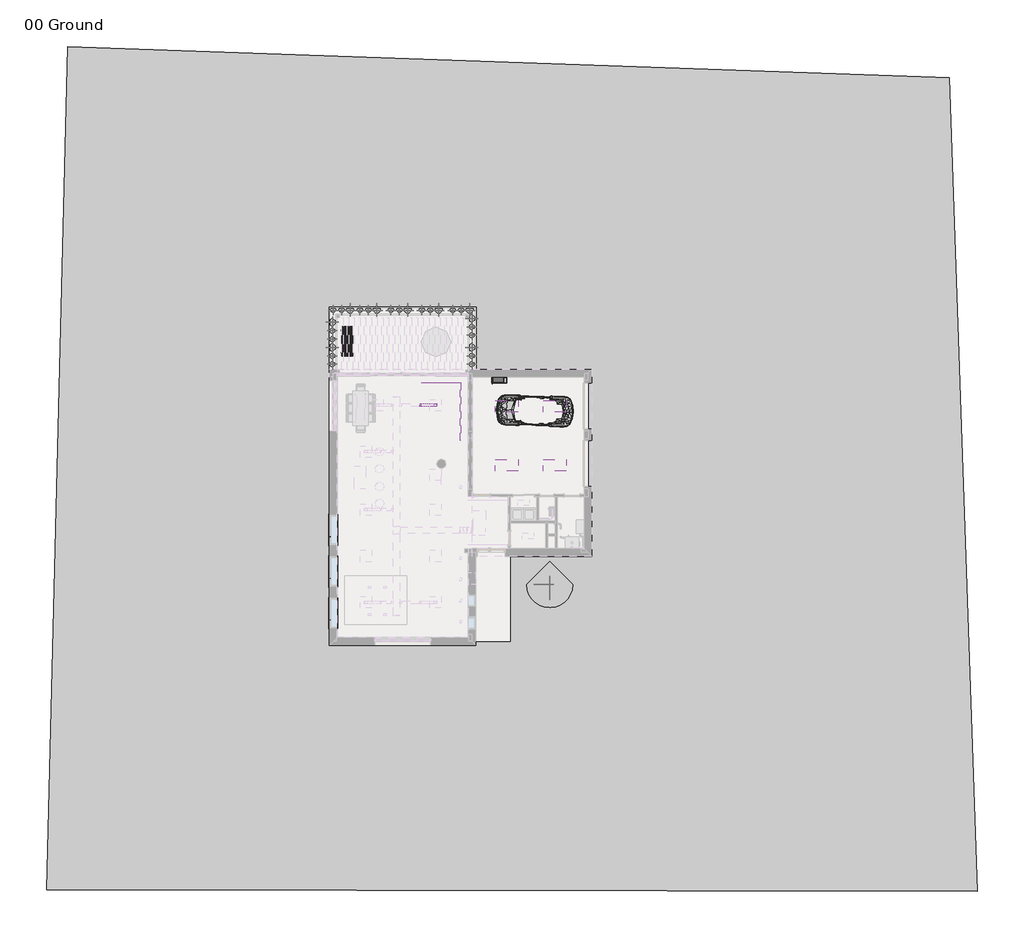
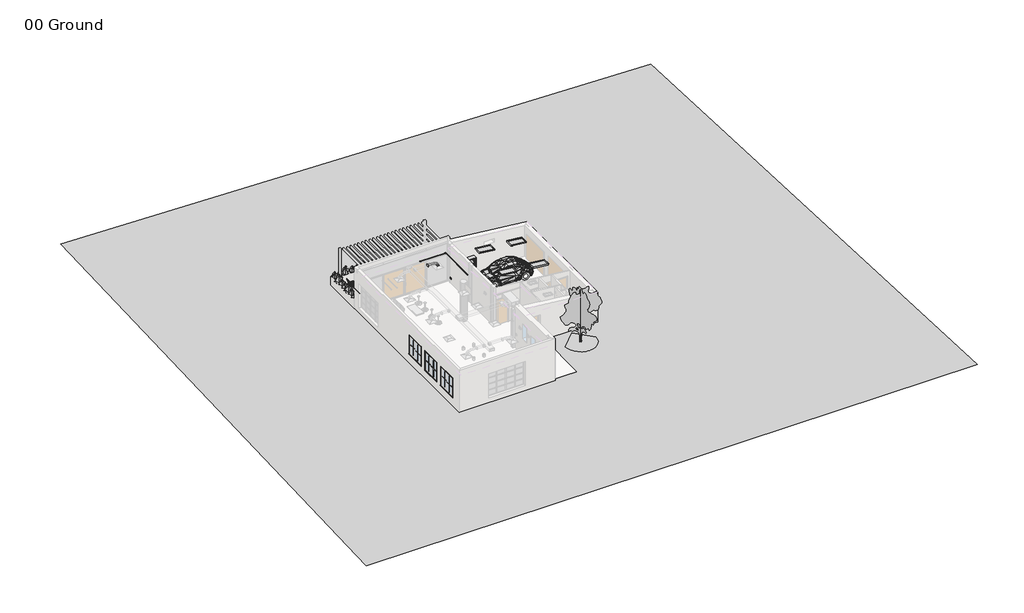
# One storey, part 7 of 7: 29 geographic elements, 19 proxies, 6 light fixtures, 2 duct fittings, 1 duct segment.
"""IFC4 building model written with IfcOpenShell, lengths in millimetres."""

from ifc_helpers import new_model, si_unit, frame, origin, place, context, project, spatial, circle_curve, ellipse_curve, triangles, transform, mapped, element, save
from ifc_brep_helpers import plane_surface, cylinder_surface, advanced_brep
from components import m_hose_reel_cabinet_surface_mounted_25_mm_ba365d7c, m_muntin_pattern_2x2_m_muntin_pattern_2x2_30659562, m_rpc_beetle_m_rpc_beetle_b6d71803, m_receptacle_220v_standard_10251bba, m_trim_window_exterior_flat_with_sill_22923e22, m_trim_window_interior_flat_picture_frame_2e224720, m_rectangular_to_round_transition_angle_45_degree_4e08f822, m_rpc_tree_deciduous_japanese_cherry_4_5_meters_cd2ce576, rpc_plant_tropical_9b0843ec, rpc_plant_tropical_418e7fe6, geographic_element_864e469f, ceiling_light_linear_box_0600x1200mm_2_lamp_230v_26f9dbca, m_downlight_strip_2000mm_277v_8f60c8d5, m_downlight_strip_3000mm_277v_9fad74d4

model = new_model("IFC4")

# Units and contexts
model_context = context("Model", 3, world=origin())
ifc_project = project(units=[si_unit("LENGTHUNIT", "METRE", prefix="MILLI")], contexts=[model_context])

# Site, building, storey
site = spatial("IfcSite", under=ifc_project)
building = spatial("IfcBuilding", under=site)
storey = spatial("IfcBuildingStorey", under=building, Name="00 Ground", Elevation=0.0)

# Proxies
placement = place(None, origin())
element("IfcBuildingElementProxy", 1, Name="Building Element Proxy", at=placement, inside=storey, context=model_context, shape_type="Tessellation", body=[
    triangles([(-23129.6788879, -20391.19953, 0.0), (24993.4581482, -20476.3734009, 0.0), (23545.5046692, 21599.4304321, 0.0), (-22022.4208923, 23217.7316528, 0.0)], [[4, 1, 3], [2, 3, 1]], closed=False),
])
m_hose_reel_cabinet_surface_mounted_25_mm_shape = m_hose_reel_cabinet_surface_mounted_25_mm_ba365d7c(model_context)
element("IfcBuildingElementProxy", 2, Name="M_Hose Reel Cabinet - Surface Mounted : 25 mm", ObjectType="M_Hose Reel Cabinet - Surface Mounted : 25 mm", at=placement, inside=storey, context=model_context, shape_type="MappedRepresentation", body=[
    mapped(m_hose_reel_cabinet_surface_mounted_25_mm_shape, transform((277.4592001, 6124.2898352, 700.0), x_axis=(1.0, 0.0, 0.0), y_axis=(0.0, 0.0, 1.0), z_axis=(0.0, -1.0, 0.0))),
])
m_muntin_pattern_2x2_m_muntin_pattern_2x2_shape = m_muntin_pattern_2x2_m_muntin_pattern_2x2_30659562(model_context)
element("IfcBuildingElementProxy", 3, Name="M_Muntin Pattern_2x2 : M_Muntin Pattern_2x2", ObjectType="M_Muntin Pattern_2x2 : M_Muntin Pattern_2x2", at=placement, inside=storey, context=model_context, shape_type="MappedRepresentation", body=[
    mapped(m_muntin_pattern_2x2_m_muntin_pattern_2x2_shape, transform((-8453.5657999, -5733.3476648, 882.55), x_axis=(0.0, 1.0, 0.0), y_axis=(-1.0, 0.0, 0.0), z_axis=(0.0, 0.0, 1.0))),
])
element("IfcBuildingElementProxy", 4, Name="M_Muntin Pattern_2x2 : M_Muntin Pattern_2x2", ObjectType="M_Muntin Pattern_2x2 : M_Muntin Pattern_2x2", at=placement, inside=storey, context=model_context, shape_type="MappedRepresentation", body=[
    mapped(m_muntin_pattern_2x2_m_muntin_pattern_2x2_shape, transform((-8498.0157999, -6442.0726648, 882.55), x_axis=(0.0, 1.0, 0.0), y_axis=(-1.0, 0.0, 0.0), z_axis=(0.0, 0.0, 1.0))),
])
element("IfcBuildingElementProxy", 5, Name="M_Muntin Pattern_2x2 : M_Muntin Pattern_2x2", ObjectType="M_Muntin Pattern_2x2 : M_Muntin Pattern_2x2", at=placement, inside=storey, context=model_context, shape_type="MappedRepresentation", body=[
    mapped(m_muntin_pattern_2x2_m_muntin_pattern_2x2_shape, transform((-8453.5657999, -3583.3476648, 882.55), x_axis=(0.0, 1.0, 0.0), y_axis=(-1.0, 0.0, 0.0), z_axis=(0.0, 0.0, 1.0))),
])
element("IfcBuildingElementProxy", 6, Name="M_Muntin Pattern_2x2 : M_Muntin Pattern_2x2", ObjectType="M_Muntin Pattern_2x2 : M_Muntin Pattern_2x2", at=placement, inside=storey, context=model_context, shape_type="MappedRepresentation", body=[
    mapped(m_muntin_pattern_2x2_m_muntin_pattern_2x2_shape, transform((-8498.0157999, -4292.0726648, 882.55), x_axis=(0.0, 1.0, 0.0), y_axis=(-1.0, 0.0, 0.0), z_axis=(0.0, 0.0, 1.0))),
])
element("IfcBuildingElementProxy", 7, Name="M_Muntin Pattern_2x2 : M_Muntin Pattern_2x2", ObjectType="M_Muntin Pattern_2x2 : M_Muntin Pattern_2x2", at=placement, inside=storey, context=model_context, shape_type="MappedRepresentation", body=[
    mapped(m_muntin_pattern_2x2_m_muntin_pattern_2x2_shape, transform((-8453.5657999, -1433.3476648, 882.55), x_axis=(0.0, 1.0, 0.0), y_axis=(-1.0, 0.0, 0.0), z_axis=(0.0, 0.0, 1.0))),
])
element("IfcBuildingElementProxy", 8, Name="M_Muntin Pattern_2x2 : M_Muntin Pattern_2x2", ObjectType="M_Muntin Pattern_2x2 : M_Muntin Pattern_2x2", at=placement, inside=storey, context=model_context, shape_type="MappedRepresentation", body=[
    mapped(m_muntin_pattern_2x2_m_muntin_pattern_2x2_shape, transform((-8498.0157999, -2142.0726648, 882.55), x_axis=(0.0, 1.0, 0.0), y_axis=(-1.0, 0.0, 0.0), z_axis=(0.0, 0.0, 1.0))),
])
m_rpc_beetle_m_rpc_beetle_shape = m_rpc_beetle_m_rpc_beetle_b6d71803(model_context)
element("IfcBuildingElementProxy", 9, Name="M_RPC Beetle : M_RPC Beetle", ObjectType="M_RPC Beetle : M_RPC Beetle", at=placement, inside=storey, context=model_context, shape_type="MappedRepresentation", body=[
    mapped(m_rpc_beetle_m_rpc_beetle_shape, transform((3335.3688929, 4337.8164199, 0.0), x_axis=(0.03176173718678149, 0.9994954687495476, 0.0), y_axis=(-0.9994954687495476, 0.03176173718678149, 0.0), z_axis=(0.0, 0.0, 1.0))),
])
m_receptacle_220v_standard_shape = m_receptacle_220v_standard_10251bba(model_context)
element("IfcBuildingElementProxy", 10, Name="M_Receptacle - 220V : Standard", ObjectType="M_Receptacle - 220V : Standard", at=placement, inside=storey, context=model_context, shape_type="MappedRepresentation", body=[
    mapped(m_receptacle_220v_standard_shape, transform((-1322.5407999, 5842.2898352, 460.0), x_axis=(0.0, 1.0, 0.0), y_axis=(0.0, 0.0, -1.0), z_axis=(-1.0, 0.0, 0.0))),
])
element("IfcBuildingElementProxy", 11, Name="M_Receptacle - 220V : Standard", ObjectType="M_Receptacle - 220V : Standard", at=placement, inside=storey, context=model_context, shape_type="MappedRepresentation", body=[
    mapped(m_receptacle_220v_standard_shape, transform((-1322.5407999, 5762.2898352, 460.0), x_axis=(0.0, 1.0, 0.0), y_axis=(0.0, 0.0, -1.0), z_axis=(-1.0, 0.0, 0.0))),
])
element("IfcBuildingElementProxy", 12, Name="M_Receptacle - 220V : Standard", ObjectType="M_Receptacle - 220V : Standard", at=placement, inside=storey, context=model_context, shape_type="MappedRepresentation", body=[
    mapped(m_receptacle_220v_standard_shape, transform((-1122.5407999, 4742.2898352, 460.0), x_axis=(0.0, 1.0, 0.0), y_axis=(0.0, 0.0, 1.0), z_axis=(1.0, 0.0, 0.0))),
])
element("IfcBuildingElementProxy", 13, Name="M_Receptacle - 220V : Standard", ObjectType="M_Receptacle - 220V : Standard", at=placement, inside=storey, context=model_context, shape_type="MappedRepresentation", body=[
    mapped(m_receptacle_220v_standard_shape, transform((-1122.5407999, 4642.2898352, 460.0), x_axis=(0.0, 1.0, 0.0), y_axis=(0.0, 0.0, 1.0), z_axis=(1.0, 0.0, 0.0))),
])
m_trim_window_exterior_flat_with_sill_shape = m_trim_window_exterior_flat_with_sill_22923e22(model_context)
element("IfcBuildingElementProxy", 14, Name="M_Trim-Window-Exterior-Flat : with Sill", ObjectType="M_Trim-Window-Exterior-Flat : with Sill", at=placement, inside=storey, context=model_context, shape_type="MappedRepresentation", body=[
    mapped(m_trim_window_exterior_flat_with_sill_shape, transform((-8507.5407999, -6087.7101648, 2300.0), x_axis=(0.0, -1.0, 0.0), y_axis=(0.0, 0.0, 1.0), z_axis=(-1.0, 0.0, 0.0))),
])
element("IfcBuildingElementProxy", 15, Name="M_Trim-Window-Exterior-Flat : with Sill", ObjectType="M_Trim-Window-Exterior-Flat : with Sill", at=placement, inside=storey, context=model_context, shape_type="MappedRepresentation", body=[
    mapped(m_trim_window_exterior_flat_with_sill_shape, transform((-8507.5407999, -3937.7101648, 2300.0), x_axis=(0.0, -1.0, 0.0), y_axis=(0.0, 0.0, 1.0), z_axis=(-1.0, 0.0, 0.0))),
])
element("IfcBuildingElementProxy", 16, Name="M_Trim-Window-Exterior-Flat : with Sill", ObjectType="M_Trim-Window-Exterior-Flat : with Sill", at=placement, inside=storey, context=model_context, shape_type="MappedRepresentation", body=[
    mapped(m_trim_window_exterior_flat_with_sill_shape, transform((-8507.5407999, -1787.7101648, 2300.0), x_axis=(0.0, -1.0, 0.0), y_axis=(0.0, 0.0, 1.0), z_axis=(-1.0, 0.0, 0.0))),
])
m_trim_window_interior_flat_picture_frame_shape = m_trim_window_interior_flat_picture_frame_2e224720(model_context)
element("IfcBuildingElementProxy", 17, Name="M_Trim-Window-Interior-Flat : Picture Frame", ObjectType="M_Trim-Window-Interior-Flat : Picture Frame", at=placement, inside=storey, context=model_context, shape_type="MappedRepresentation", body=[
    mapped(m_trim_window_interior_flat_picture_frame_shape, transform((-8109.5407999, -6087.7101648, 2300.0), x_axis=(0.0, 1.0, 0.0), y_axis=(0.0, 0.0, 1.0), z_axis=(1.0, 0.0, 0.0))),
])
element("IfcBuildingElementProxy", 18, Name="M_Trim-Window-Interior-Flat : Picture Frame", ObjectType="M_Trim-Window-Interior-Flat : Picture Frame", at=placement, inside=storey, context=model_context, shape_type="MappedRepresentation", body=[
    mapped(m_trim_window_interior_flat_picture_frame_shape, transform((-8109.5407999, -3937.7101648, 2300.0), x_axis=(0.0, 1.0, 0.0), y_axis=(0.0, 0.0, 1.0), z_axis=(1.0, 0.0, 0.0))),
])
element("IfcBuildingElementProxy", 19, Name="M_Trim-Window-Interior-Flat : Picture Frame", ObjectType="M_Trim-Window-Interior-Flat : Picture Frame", at=placement, inside=storey, context=model_context, shape_type="MappedRepresentation", body=[
    mapped(m_trim_window_interior_flat_picture_frame_shape, transform((-8109.5407999, -1787.7101648, 2300.0), x_axis=(0.0, 1.0, 0.0), y_axis=(0.0, 0.0, 1.0), z_axis=(1.0, 0.0, 0.0))),
])

# Duct fittings
m_rectangular_to_round_transition_angle_45_degree_shape = m_rectangular_to_round_transition_angle_45_degree_4e08f822(model_context)
element("IfcDuctFitting", 20, ObjectType="M_Rectangular to Round Transition - Angle : 45 Degree", at=placement, inside=storey, context=model_context, shape_type="MappedRepresentation", body=[
    mapped(m_rectangular_to_round_transition_angle_45_degree_shape, transform((-3024.5407999, 4667.2898352, 2801.8523776), x_axis=(0.0, 0.0, 1.0), y_axis=(-1.0, 0.0, 0.0), z_axis=(0.0, -1.0, 0.0))),
])
element("IfcDuctFitting", 21, ObjectType="M_Rectangular to Round Transition - Angle : 45 Degree", at=placement, inside=storey, context=model_context, shape_type="MappedRepresentation", body=[
    mapped(m_rectangular_to_round_transition_angle_45_degree_shape, transform((-3824.2611432, 4667.2898352, 3090.0), x_axis=(1.0, 0.0, 0.0), y_axis=(0.0, 1.0, 0.0), z_axis=(0.0, 0.0, 1.0))),
])

# Duct segment
element("IfcDuctSegment", 22, ObjectType="Flex - Round", at=placement, inside=storey, context=model_context, shape_type="AdvancedBrep", body=[
    advanced_brep(
    [(-2949.5407999, 4667.2898352, 2839.3523776), (-3024.5407999, 4592.2898352, 2839.3523776), (-3099.5407999, 4667.2898352, 2839.3523776), (-3024.5407999, 4742.2898352, 2839.3523776), (-2949.5407999, 4667.2898352, 2865.5533859), (-3024.5407999, 4592.2898352, 2855.419138), (-3099.5407999, 4667.2898352, 2845.2848901), (-3024.5407999, 4742.2898352, 2855.419138), (-2973.628662, 4667.2898352, 2953.0588628), (-3041.8748416, 4592.2898352, 2918.3895908), (-3110.1210211, 4667.2898352, 2883.7203187), (-3041.8748416, 4742.2898352, 2918.3895908), (-3039.4967058, 4667.2898352, 3035.9534644), (-3089.9150095, 4592.2898352, 2978.8479003), (-3140.3333132, 4667.2898352, 2921.7423363), (-3089.9150095, 4742.2898352, 2978.8479003), (-3130.8846146, 4667.2898352, 3091.6340262), (-3162.7183683, 4592.2898352, 3023.205321), (-3194.552122, 4667.2898352, 2954.7766158), (-3162.7183683, 4742.2898352, 3023.205321), (-3235.4161601, 4667.2898352, 3126.6984544), (-3254.3419824, 4592.2898352, 3053.9398674), (-3273.2678048, 4667.2898352, 2981.1812805), (-3254.3419824, 4742.2898352, 3053.9398674), (-3348.2550385, 4667.2898352, 3147.8511676), (-3358.8429165, 4592.2898352, 3073.5295543), (-3369.4307945, 4667.2898352, 2999.207941), (-3358.8429165, 4742.2898352, 3073.5295543), (-3465.0383469, 4667.2898352, 3159.2982173), (-3470.2782351, 4592.2898352, 3084.4523963), (-3475.5181233, 4667.2898352, 3009.6065753), (-3470.2782351, 4742.2898352, 3084.4523963), (-3580.769861, 4667.2898352, 3164.1713838), (-3582.7050027, 4592.2898352, 3089.1864082), (-3584.6401443, 4667.2898352, 3014.2014325), (-3582.7050027, 4742.2898352, 3089.1864082), (-3689.9046637, 4667.2898352, 3165.2103793), (-3690.1802839, 4592.2898352, 3090.2096045), (-3690.455904, 4667.2898352, 3015.2088297), (-3690.1802839, 4742.2898352, 3090.2096045), (-3786.9239114, 4667.2898352, 3164.9998234), (-3786.7611432, 4592.2898352, 3090.0), (-3786.5983749, 4667.2898352, 3015.0001766), (-3786.7611432, 4742.2898352, 3090.0)],
    [
        (0, 1, circle_curve(frame((-3024.5407999, 4667.2898352, 2839.3523776), z_axis=(0.0, 0.0, -1.0), x_axis=(1.0, 0.0, 0.0)), 75.0)),
        (1, 2, circle_curve(frame((-3024.5407999, 4667.2898352, 2839.3523776), z_axis=(0.0, 0.0, -1.0), x_axis=(1.0, 0.0, 0.0)), 75.0)),
        (2, 3, circle_curve(frame((-3024.5407999, 4667.2898352, 2839.3523776), z_axis=(0.0, 0.0, -1.0), x_axis=(1.0, 0.0, 0.0)), 75.0)),
        (3, 0, circle_curve(frame((-3024.5407999, 4667.2898352, 2839.3523776), z_axis=(0.0, 0.0, -1.0), x_axis=(1.0, 0.0, 0.0)), 75.0)),
        (0, 4),
        (4, 5, ellipse_curve(frame((-3024.5407999, 4667.2898352, 2855.419138), z_axis=(0.133906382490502, 0.0, -0.9909939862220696), x_axis=(-0.9909939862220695, 0.0, -0.13390638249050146)), 75.6815894, 75.0)),
        (5, 1),
        (5, 6, ellipse_curve(frame((-3024.5407999, 4667.2898352, 2855.419138), z_axis=(0.133906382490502, 0.0, -0.9909939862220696), x_axis=(-0.9909939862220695, 0.0, -0.13390638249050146)), 75.6815894, 75.0)),
        (6, 2),
        (6, 7, ellipse_curve(frame((-3024.5407999, 4667.2898352, 2855.419138), z_axis=(0.133906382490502, 0.0, -0.9909939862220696), x_axis=(-0.9909939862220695, 0.0, -0.13390638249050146)), 75.6815894, 75.0)),
        (7, 3),
        (7, 4, ellipse_curve(frame((-3024.5407999, 4667.2898352, 2855.419138), z_axis=(0.133906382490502, 0.0, -0.9909939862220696), x_axis=(-0.9909939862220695, 0.0, -0.13390638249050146)), 75.6815894, 75.0)),
        (4, 8),
        (8, 9, ellipse_curve(frame((-3041.8748416, 4667.2898352, 2918.3895908), z_axis=(0.45291266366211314, 0.0, -0.8915548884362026), x_axis=(-0.8915548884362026, 0.0, -0.4529126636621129)), 76.5473674, 75.0)),
        (9, 5),
        (9, 10, ellipse_curve(frame((-3041.8748416, 4667.2898352, 2918.3895908), z_axis=(0.45291266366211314, 0.0, -0.8915548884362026), x_axis=(-0.8915548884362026, 0.0, -0.4529126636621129)), 76.5473674, 75.0)),
        (10, 6),
        (10, 11, ellipse_curve(frame((-3041.8748416, 4667.2898352, 2918.3895908), z_axis=(0.45291266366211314, 0.0, -0.8915548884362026), x_axis=(-0.8915548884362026, 0.0, -0.4529126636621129)), 76.5473674, 75.0)),
        (11, 7),
        (11, 8, ellipse_curve(frame((-3041.8748416, 4667.2898352, 2918.3895908), z_axis=(0.45291266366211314, 0.0, -0.8915548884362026), x_axis=(-0.8915548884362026, 0.0, -0.4529126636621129)), 76.5473674, 75.0)),
        (8, 12),
        (12, 13, ellipse_curve(frame((-3089.9150095, 4667.2898352, 2978.8479003), z_axis=(0.749635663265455, 0.0, -0.6618507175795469), x_axis=(-0.6618507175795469, 0.0, -0.7496356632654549)), 76.1777579, 75.0)),
        (13, 9),
        (13, 14, ellipse_curve(frame((-3089.9150095, 4667.2898352, 2978.8479003), z_axis=(0.749635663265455, 0.0, -0.6618507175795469), x_axis=(-0.6618507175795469, 0.0, -0.7496356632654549)), 76.1777579, 75.0)),
        (14, 10),
        (14, 15, ellipse_curve(frame((-3089.9150095, 4667.2898352, 2978.8479003), z_axis=(0.749635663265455, 0.0, -0.6618507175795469), x_axis=(-0.6618507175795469, 0.0, -0.7496356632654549)), 76.1777579, 75.0)),
        (15, 11),
        (15, 12, ellipse_curve(frame((-3089.9150095, 4667.2898352, 2978.8479003), z_axis=(0.749635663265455, 0.0, -0.6618507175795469), x_axis=(-0.6618507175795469, 0.0, -0.7496356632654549)), 76.1777579, 75.0)),
        (12, 16),
        (16, 17, ellipse_curve(frame((-3162.7183683, 4667.2898352, 3023.205321), z_axis=(0.9066884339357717, 0.0, -0.42180100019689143), x_axis=(-0.4218010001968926, 0.0, -0.906688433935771)), 75.4710247, 75.0)),
        (17, 13),
        (17, 18, ellipse_curve(frame((-3162.7183683, 4667.2898352, 3023.205321), z_axis=(0.9066884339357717, 0.0, -0.42180100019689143), x_axis=(-0.4218010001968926, 0.0, -0.906688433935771)), 75.4710247, 75.0)),
        (18, 14),
        (18, 19, ellipse_curve(frame((-3162.7183683, 4667.2898352, 3023.205321), z_axis=(0.9066884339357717, 0.0, -0.42180100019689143), x_axis=(-0.4218010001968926, 0.0, -0.906688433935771)), 75.4710247, 75.0)),
        (19, 15),
        (19, 16, ellipse_curve(frame((-3162.7183683, 4667.2898352, 3023.205321), z_axis=(0.9066884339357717, 0.0, -0.42180100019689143), x_axis=(-0.4218010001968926, 0.0, -0.906688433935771)), 75.4710247, 75.0)),
        (16, 20),
        (20, 21, ellipse_curve(frame((-3254.3419824, 4667.2898352, 3053.9398674), z_axis=(0.9677946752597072, 0.0, -0.2517408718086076), x_axis=(-0.2517408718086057, 0.0, -0.9677946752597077)), 75.179776, 75.0)),
        (21, 17),
        (21, 22, ellipse_curve(frame((-3254.3419824, 4667.2898352, 3053.9398674), z_axis=(0.9677946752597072, 0.0, -0.2517408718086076), x_axis=(-0.2517408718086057, 0.0, -0.9677946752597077)), 75.179776, 75.0)),
        (22, 18),
        (22, 23, ellipse_curve(frame((-3254.3419824, 4667.2898352, 3053.9398674), z_axis=(0.9677946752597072, 0.0, -0.2517408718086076), x_axis=(-0.2517408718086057, 0.0, -0.9677946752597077)), 75.179776, 75.0)),
        (23, 19),
        (23, 20, ellipse_curve(frame((-3254.3419824, 4667.2898352, 3053.9398674), z_axis=(0.9677946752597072, 0.0, -0.2517408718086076), x_axis=(-0.2517408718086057, 0.0, -0.9677946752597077)), 75.179776, 75.0)),
        (20, 24),
        (24, 25, ellipse_curve(frame((-3358.8429165, 4667.2898352, 3073.5295543), z_axis=(0.9900044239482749, 0.0, -0.14103630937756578), x_axis=(-0.14103630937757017, 0.0, -0.9900044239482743)), 75.0720012, 75.0)),
        (25, 21),
        (25, 26, ellipse_curve(frame((-3358.8429165, 4667.2898352, 3073.5295543), z_axis=(0.9900044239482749, 0.0, -0.14103630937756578), x_axis=(-0.14103630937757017, 0.0, -0.9900044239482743)), 75.0720012, 75.0)),
        (26, 22),
        (26, 27, ellipse_curve(frame((-3358.8429165, 4667.2898352, 3073.5295543), z_axis=(0.9900044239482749, 0.0, -0.14103630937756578), x_axis=(-0.14103630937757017, 0.0, -0.9900044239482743)), 75.0720012, 75.0)),
        (27, 23),
        (27, 24, ellipse_curve(frame((-3358.8429165, 4667.2898352, 3073.5295543), z_axis=(0.9900044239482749, 0.0, -0.14103630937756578), x_axis=(-0.14103630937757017, 0.0, -0.9900044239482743)), 75.0720012, 75.0)),
        (24, 28),
        (28, 29, ellipse_curve(frame((-3470.2782351, 4667.2898352, 3084.4523963), z_axis=(0.9975583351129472, 0.0, -0.06983815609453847), x_axis=(-0.0698381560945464, 0.0, -0.9975583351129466)), 75.0290167, 75.0)),
        (29, 25),
        (29, 30, ellipse_curve(frame((-3470.2782351, 4667.2898352, 3084.4523963), z_axis=(0.9975583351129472, 0.0, -0.06983815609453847), x_axis=(-0.0698381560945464, 0.0, -0.9975583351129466)), 75.0290167, 75.0)),
        (30, 26),
        (30, 31, ellipse_curve(frame((-3470.2782351, 4667.2898352, 3084.4523963), z_axis=(0.9975583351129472, 0.0, -0.06983815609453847), x_axis=(-0.0698381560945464, 0.0, -0.9975583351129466)), 75.0290167, 75.0)),
        (31, 27),
        (31, 28, ellipse_curve(frame((-3470.2782351, 4667.2898352, 3084.4523963), z_axis=(0.9975583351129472, 0.0, -0.06983815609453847), x_axis=(-0.0698381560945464, 0.0, -0.9975583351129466)), 75.0290167, 75.0)),
        (28, 32),
        (32, 33, ellipse_curve(frame((-3582.7050027, 4667.2898352, 3089.1864082), z_axis=(0.9996671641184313, 0.0, -0.025798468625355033), x_axis=(-0.02579846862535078, 0.0, -0.9996671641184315)), 75.0099417, 75.0)),
        (33, 29),
        (33, 34, ellipse_curve(frame((-3582.7050027, 4667.2898352, 3089.1864082), z_axis=(0.9996671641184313, 0.0, -0.025798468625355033), x_axis=(-0.02579846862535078, 0.0, -0.9996671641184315)), 75.0099417, 75.0)),
        (34, 30),
        (34, 35, ellipse_curve(frame((-3582.7050027, 4667.2898352, 3089.1864082), z_axis=(0.9996671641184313, 0.0, -0.025798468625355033), x_axis=(-0.02579846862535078, 0.0, -0.9996671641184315)), 75.0099417, 75.0)),
        (35, 31),
        (35, 32, ellipse_curve(frame((-3582.7050027, 4667.2898352, 3089.1864082), z_axis=(0.9996671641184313, 0.0, -0.025798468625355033), x_axis=(-0.02579846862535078, 0.0, -0.9996671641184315)), 75.0099417, 75.0)),
        (32, 36),
        (36, 37, ellipse_curve(frame((-3690.1802839, 4667.2898352, 3090.2096045), z_axis=(0.999993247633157, 0.0, -0.0036748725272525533), x_axis=(-0.003674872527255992, 0.0, -0.9999932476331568)), 75.0012812, 75.0)),
        (37, 33),
        (37, 38, ellipse_curve(frame((-3690.1802839, 4667.2898352, 3090.2096045), z_axis=(0.999993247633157, 0.0, -0.0036748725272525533), x_axis=(-0.003674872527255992, 0.0, -0.9999932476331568)), 75.0012812, 75.0)),
        (38, 34),
        (38, 39, ellipse_curve(frame((-3690.1802839, 4667.2898352, 3090.2096045), z_axis=(0.999993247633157, 0.0, -0.0036748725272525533), x_axis=(-0.003674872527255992, 0.0, -0.9999932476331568)), 75.0012812, 75.0)),
        (39, 35),
        (39, 36, ellipse_curve(frame((-3690.1802839, 4667.2898352, 3090.2096045), z_axis=(0.999993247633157, 0.0, -0.0036748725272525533), x_axis=(-0.003674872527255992, 0.0, -0.9999932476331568)), 75.0012812, 75.0)),
        (36, 40),
        (40, 41, circle_curve(frame((-3786.7611432, 4667.2898352, 3090.0), z_axis=(0.9999976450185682, 0.0, 0.002170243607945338), x_axis=(-0.002170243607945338, 0.0, 0.9999976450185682)), 75.0)),
        (41, 37),
        (41, 42, circle_curve(frame((-3786.7611432, 4667.2898352, 3090.0), z_axis=(0.9999976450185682, 0.0, 0.002170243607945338), x_axis=(-0.002170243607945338, 0.0, 0.9999976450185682)), 75.0)),
        (42, 38),
        (42, 43, circle_curve(frame((-3786.7611432, 4667.2898352, 3090.0), z_axis=(0.9999976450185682, 0.0, 0.002170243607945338), x_axis=(-0.002170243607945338, 0.0, 0.9999976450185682)), 75.0)),
        (43, 39),
        (43, 40, circle_curve(frame((-3786.7611432, 4667.2898352, 3090.0), z_axis=(0.9999976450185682, 0.0, 0.002170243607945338), x_axis=(-0.002170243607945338, 0.0, 0.9999976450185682)), 75.0)),
    ],
    [
        plane_surface(frame((-3024.5407999, 4592.2898352, 2839.3523776), z_axis=(0.0, 0.0, -1.0), x_axis=(1.0, 0.0, 0.0))),
        cylinder_surface(frame((-3024.5407999, 4667.2898352, 2839.3523776), z_axis=(0.0, 0.0, -1.0), x_axis=(1.0, 0.0, 0.0)), 75.0),
        cylinder_surface(frame((-3024.5407999, 4667.2898352, 2855.419138), z_axis=(0.2654008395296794, 0.0, -0.9641381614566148), x_axis=(0.9641381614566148, 0.0, 0.2654008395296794)), 75.0),
        cylinder_surface(frame((-3041.8748416, 4667.2898352, 2918.3895908), z_axis=(0.6221136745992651, 0.0, -0.7829269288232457), x_axis=(0.7829269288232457, 0.0, 0.6221136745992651)), 75.0),
        cylinder_surface(frame((-3089.9150095, 4667.2898352, 2978.8479003), z_axis=(0.8539779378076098, 0.0, -0.5203092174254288), x_axis=(0.5203092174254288, 0.0, 0.8539779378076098)), 75.0),
        cylinder_surface(frame((-3162.7183683, 4667.2898352, 3023.205321), z_axis=(0.9480814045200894, 0.0, -0.3180277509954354), x_axis=(0.3180277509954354, 0.0, 0.9480814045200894)), 75.0),
        cylinder_surface(frame((-3254.3419824, 4667.2898352, 3053.9398674), z_axis=(0.9828794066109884, 0.0, -0.1842500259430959), x_axis=(0.1842500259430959, 0.0, 0.9828794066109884)), 75.0),
        cylinder_surface(frame((-3358.8429165, 4667.2898352, 3073.5295543), z_axis=(0.9952304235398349, 0.0, -0.09755205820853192), x_axis=(0.09755205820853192, 0.0, 0.9952304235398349)), 75.0),
        cylinder_surface(frame((-3470.2782351, 4667.2898352, 3084.4523963), z_axis=(0.9991146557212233, 0.0, -0.04207023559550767), x_axis=(0.04207023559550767, 0.0, 0.9991146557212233)), 75.0),
        cylinder_surface(frame((-3582.7050027, 4667.2898352, 3089.1864082), z_axis=(0.9999546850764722, 0.0, -0.00951986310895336), x_axis=(0.00951986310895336, 0.0, 0.9999546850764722)), 75.0),
        cylinder_surface(frame((-3690.1802839, 4667.2898352, 3090.2096045), z_axis=(0.9999976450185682, 0.0, 0.002170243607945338), x_axis=(-0.002170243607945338, 0.0, 0.9999976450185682)), 75.0),
        plane_surface(frame((-3786.7611432, 4742.2898352, 3090.0), z_axis=(-0.9999976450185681, 0.0, -0.0021702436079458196), x_axis=(0.0021702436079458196, -2.5828228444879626e-12, -0.9999976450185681))),
    ],
    [
        (0, [[1, 2, 3, 4]]),
        (1, [[-1, 5, 6, 7]]),
        (1, [[-2, -7, 8, 9]]),
        (1, [[-3, -9, 10, 11]]),
        (1, [[-4, -11, 12, -5]]),
        (2, [[-6, 13, 14, 15]]),
        (2, [[-8, -15, 16, 17]]),
        (2, [[-10, -17, 18, 19]]),
        (2, [[-12, -19, 20, -13]]),
        (3, [[-14, 21, 22, 23]]),
        (3, [[-16, -23, 24, 25]]),
        (3, [[-18, -25, 26, 27]]),
        (3, [[-20, -27, 28, -21]]),
        (4, [[-22, 29, 30, 31]]),
        (4, [[-24, -31, 32, 33]]),
        (4, [[-26, -33, 34, 35]]),
        (4, [[-28, -35, 36, -29]]),
        (5, [[-30, 37, 38, 39]]),
        (5, [[-32, -39, 40, 41]]),
        (5, [[-34, -41, 42, 43]]),
        (5, [[-36, -43, 44, -37]]),
        (6, [[-38, 45, 46, 47]]),
        (6, [[-40, -47, 48, 49]]),
        (6, [[-42, -49, 50, 51]]),
        (6, [[-44, -51, 52, -45]]),
        (7, [[-46, 53, 54, 55]]),
        (7, [[-48, -55, 56, 57]]),
        (7, [[-50, -57, 58, 59]]),
        (7, [[-52, -59, 60, -53]]),
        (8, [[-54, 61, 62, 63]]),
        (8, [[-56, -63, 64, 65]]),
        (8, [[-58, -65, 66, 67]]),
        (8, [[-60, -67, 68, -61]]),
        (9, [[-62, 69, 70, 71]]),
        (9, [[-64, -71, 72, 73]]),
        (9, [[-66, -73, 74, 75]]),
        (9, [[-68, -75, 76, -69]]),
        (10, [[-70, 77, 78, 79]]),
        (10, [[-72, -79, 80, 81]]),
        (10, [[-74, -81, 82, 83]]),
        (10, [[-76, -83, 84, -77]]),
        (11, [[-84, -82, -80, -78]]),
    ],
),
])

# Geographic elements
m_rpc_tree_deciduous_japanese_cherry_4_5_meters_shape = m_rpc_tree_deciduous_japanese_cherry_4_5_meters_cd2ce576(model_context)
element("IfcGeographicElement", 23, ObjectType="M_RPC Tree - Deciduous : Japanese Cherry - 4.5 Meters", at=placement, inside=storey, context=model_context, shape_type="MappedRepresentation", body=[
    mapped(m_rpc_tree_deciduous_japanese_cherry_4_5_meters_shape, transform((2882.4592001, -4607.7101648, 0.0), x_axis=(1.0, 0.0, 0.0), y_axis=(0.0, 1.0, 0.0), z_axis=(0.0, 0.0, 1.0))),
])
rpc_plant_tropical_shape = rpc_plant_tropical_9b0843ec(model_context)
element("IfcGeographicElement", 24, ObjectType="RPC Plant - Tropical : Crane Lily - 0.9 Meters", at=placement, inside=storey, context=model_context, shape_type="MappedRepresentation", body=[
    mapped(rpc_plant_tropical_shape, transform((-2129.8179507, 9567.6039675, 655.0), x_axis=(-1.0, 0.0, 0.0), y_axis=(0.0, -1.0, 0.0), z_axis=(0.0, 0.0, 1.0))),
])
element("IfcGeographicElement", 25, ObjectType="RPC Plant - Tropical : Crane Lily - 0.9 Meters", at=placement, inside=storey, context=model_context, shape_type="MappedRepresentation", body=[
    mapped(rpc_plant_tropical_shape, transform((-1693.7823765, 9567.6039675, 655.0), x_axis=(-1.0, 0.0, 0.0), y_axis=(0.0, -1.0, 0.0), z_axis=(0.0, 0.0, 1.0))),
])
element("IfcGeographicElement", 26, ObjectType="RPC Plant - Tropical : Crane Lily - 0.9 Meters", at=placement, inside=storey, context=model_context, shape_type="MappedRepresentation", body=[
    mapped(rpc_plant_tropical_shape, transform((-3729.8179507, 9567.6039675, 655.0), x_axis=(-1.0, 0.0, 0.0), y_axis=(0.0, -1.0, 0.0), z_axis=(0.0, 0.0, 1.0))),
])
element("IfcGeographicElement", 27, ObjectType="RPC Plant - Tropical : Crane Lily - 0.9 Meters", at=placement, inside=storey, context=model_context, shape_type="MappedRepresentation", body=[
    mapped(rpc_plant_tropical_shape, transform((-3293.7823765, 9567.6039675, 655.0), x_axis=(-1.0, 0.0, 0.0), y_axis=(0.0, -1.0, 0.0), z_axis=(0.0, 0.0, 1.0))),
])
element("IfcGeographicElement", 28, ObjectType="RPC Plant - Tropical : Crane Lily - 0.9 Meters", at=placement, inside=storey, context=model_context, shape_type="MappedRepresentation", body=[
    mapped(rpc_plant_tropical_shape, transform((-5329.8179507, 9567.6039675, 655.0), x_axis=(-1.0, 0.0, 0.0), y_axis=(0.0, -1.0, 0.0), z_axis=(0.0, 0.0, 1.0))),
])
element("IfcGeographicElement", 29, ObjectType="RPC Plant - Tropical : Crane Lily - 0.9 Meters", at=placement, inside=storey, context=model_context, shape_type="MappedRepresentation", body=[
    mapped(rpc_plant_tropical_shape, transform((-4893.7823765, 9567.6039675, 655.0), x_axis=(-1.0, 0.0, 0.0), y_axis=(0.0, -1.0, 0.0), z_axis=(0.0, 0.0, 1.0))),
])
element("IfcGeographicElement", 30, ObjectType="RPC Plant - Tropical : Crane Lily - 0.9 Meters", at=placement, inside=storey, context=model_context, shape_type="MappedRepresentation", body=[
    mapped(rpc_plant_tropical_shape, transform((-6929.8179507, 9567.6039675, 655.0), x_axis=(-1.0, 0.0, 0.0), y_axis=(0.0, -1.0, 0.0), z_axis=(0.0, 0.0, 1.0))),
])
element("IfcGeographicElement", 31, ObjectType="RPC Plant - Tropical : Crane Lily - 0.9 Meters", at=placement, inside=storey, context=model_context, shape_type="MappedRepresentation", body=[
    mapped(rpc_plant_tropical_shape, transform((-6493.7823765, 9567.6039675, 655.0), x_axis=(-1.0, 0.0, 0.0), y_axis=(0.0, -1.0, 0.0), z_axis=(0.0, 0.0, 1.0))),
])
element("IfcGeographicElement", 32, ObjectType="RPC Plant - Tropical : Crane Lily - 0.9 Meters", at=placement, inside=storey, context=model_context, shape_type="MappedRepresentation", body=[
    mapped(rpc_plant_tropical_shape, transform((-8311.2459151, 9567.6039675, 655.0), x_axis=(-1.0, 0.0, 0.0), y_axis=(0.0, -1.0, 0.0), z_axis=(0.0, 0.0, 1.0))),
])
element("IfcGeographicElement", 33, ObjectType="RPC Plant - Tropical : Crane Lily - 0.9 Meters", at=placement, inside=storey, context=model_context, shape_type="MappedRepresentation", body=[
    mapped(rpc_plant_tropical_shape, transform((-7875.2103409, 9567.6039675, 655.0), x_axis=(-1.0, 0.0, 0.0), y_axis=(0.0, -1.0, 0.0), z_axis=(0.0, 0.0, 1.0))),
])
element("IfcGeographicElement", 34, ObjectType="RPC Plant - Tropical : Crane Lily - 0.9 Meters", at=placement, inside=storey, context=model_context, shape_type="MappedRepresentation", body=[
    mapped(rpc_plant_tropical_shape, transform((-8332.1761013, 8083.3787359, 655.0), x_axis=(0.0, -1.0, 0.0), y_axis=(1.0, 0.0, 0.0), z_axis=(0.0, 0.0, 1.0))),
])
element("IfcGeographicElement", 35, ObjectType="RPC Plant - Tropical : Crane Lily - 0.9 Meters", at=placement, inside=storey, context=model_context, shape_type="MappedRepresentation", body=[
    mapped(rpc_plant_tropical_shape, transform((-8332.1761013, 8519.4143101, 655.0), x_axis=(0.0, -1.0, 0.0), y_axis=(1.0, 0.0, 0.0), z_axis=(0.0, 0.0, 1.0))),
])
element("IfcGeographicElement", 36, ObjectType="RPC Plant - Tropical : Crane Lily - 0.9 Meters", at=placement, inside=storey, context=model_context, shape_type="MappedRepresentation", body=[
    mapped(rpc_plant_tropical_shape, transform((-8332.1761013, 6783.3787359, 655.0), x_axis=(0.0, -1.0, 0.0), y_axis=(1.0, 0.0, 0.0), z_axis=(0.0, 0.0, 1.0))),
])
element("IfcGeographicElement", 37, ObjectType="RPC Plant - Tropical : Crane Lily - 0.9 Meters", at=placement, inside=storey, context=model_context, shape_type="MappedRepresentation", body=[
    mapped(rpc_plant_tropical_shape, transform((-8332.1761013, 7219.4143101, 655.0), x_axis=(0.0, -1.0, 0.0), y_axis=(1.0, 0.0, 0.0), z_axis=(0.0, 0.0, 1.0))),
])
element("IfcGeographicElement", 38, ObjectType="RPC Plant - Tropical : Crane Lily - 0.9 Meters", at=placement, inside=storey, context=model_context, shape_type="MappedRepresentation", body=[
    mapped(rpc_plant_tropical_shape, transform((-1118.5372935, 6783.3787359, 655.0), x_axis=(0.0, -1.0, 0.0), y_axis=(1.0, 0.0, 0.0), z_axis=(0.0, 0.0, 1.0))),
])
element("IfcGeographicElement", 39, ObjectType="RPC Plant - Tropical : Crane Lily - 0.9 Meters", at=placement, inside=storey, context=model_context, shape_type="MappedRepresentation", body=[
    mapped(rpc_plant_tropical_shape, transform((-1118.5372935, 7219.4143101, 655.0), x_axis=(0.0, -1.0, 0.0), y_axis=(1.0, 0.0, 0.0), z_axis=(0.0, 0.0, 1.0))),
])
element("IfcGeographicElement", 40, ObjectType="RPC Plant - Tropical : Crane Lily - 0.9 Meters", at=placement, inside=storey, context=model_context, shape_type="MappedRepresentation", body=[
    mapped(rpc_plant_tropical_shape, transform((-1118.5372935, 8283.3787359, 655.0), x_axis=(0.0, -1.0, 0.0), y_axis=(1.0, 0.0, 0.0), z_axis=(0.0, 0.0, 1.0))),
])
element("IfcGeographicElement", 41, ObjectType="RPC Plant - Tropical : Crane Lily - 0.9 Meters", at=placement, inside=storey, context=model_context, shape_type="MappedRepresentation", body=[
    mapped(rpc_plant_tropical_shape, transform((-1118.5372935, 8719.4143101, 655.0), x_axis=(0.0, -1.0, 0.0), y_axis=(1.0, 0.0, 0.0), z_axis=(0.0, 0.0, 1.0))),
])
rpc_plant_tropical_2_shape = rpc_plant_tropical_418e7fe6(model_context)
element("IfcGeographicElement", 42, ObjectType="RPC Plant - Tropical : Crane Lily - 0.9 Meters 2", at=placement, inside=storey, context=model_context, shape_type="MappedRepresentation", body=[
    mapped(rpc_plant_tropical_2_shape, transform((-1257.7468023, 9567.6039675, 655.0), x_axis=(-1.0, 0.0, 0.0), y_axis=(0.0, -1.0, 0.0), z_axis=(0.0, 0.0, 1.0))),
])
element("IfcGeographicElement", 43, ObjectType="RPC Plant - Tropical : Crane Lily - 0.9 Meters 2", at=placement, inside=storey, context=model_context, shape_type="MappedRepresentation", body=[
    mapped(rpc_plant_tropical_2_shape, transform((-2857.7468023, 9567.6039675, 655.0), x_axis=(-1.0, 0.0, 0.0), y_axis=(0.0, -1.0, 0.0), z_axis=(0.0, 0.0, 1.0))),
])
element("IfcGeographicElement", 44, ObjectType="RPC Plant - Tropical : Crane Lily - 0.9 Meters 2", at=placement, inside=storey, context=model_context, shape_type="MappedRepresentation", body=[
    mapped(rpc_plant_tropical_2_shape, transform((-4457.7468023, 9567.6039675, 655.0), x_axis=(-1.0, 0.0, 0.0), y_axis=(0.0, -1.0, 0.0), z_axis=(0.0, 0.0, 1.0))),
])
element("IfcGeographicElement", 45, ObjectType="RPC Plant - Tropical : Crane Lily - 0.9 Meters 2", at=placement, inside=storey, context=model_context, shape_type="MappedRepresentation", body=[
    mapped(rpc_plant_tropical_2_shape, transform((-6057.7468023, 9567.6039675, 655.0), x_axis=(-1.0, 0.0, 0.0), y_axis=(0.0, -1.0, 0.0), z_axis=(0.0, 0.0, 1.0))),
])
element("IfcGeographicElement", 46, ObjectType="RPC Plant - Tropical : Crane Lily - 0.9 Meters 2", at=placement, inside=storey, context=model_context, shape_type="MappedRepresentation", body=[
    mapped(rpc_plant_tropical_2_shape, transform((-7439.1747668, 9567.6039675, 655.0), x_axis=(-1.0, 0.0, 0.0), y_axis=(0.0, -1.0, 0.0), z_axis=(0.0, 0.0, 1.0))),
])
element("IfcGeographicElement", 47, ObjectType="RPC Plant - Tropical : Crane Lily - 0.9 Meters 2", at=placement, inside=storey, context=model_context, shape_type="MappedRepresentation", body=[
    mapped(rpc_plant_tropical_2_shape, transform((-8332.1761013, 8955.4498843, 655.0), x_axis=(0.0, -1.0, 0.0), y_axis=(1.0, 0.0, 0.0), z_axis=(0.0, 0.0, 1.0))),
])
element("IfcGeographicElement", 48, ObjectType="RPC Plant - Tropical : Crane Lily - 0.9 Meters 2", at=placement, inside=storey, context=model_context, shape_type="MappedRepresentation", body=[
    mapped(rpc_plant_tropical_2_shape, transform((-8332.1761013, 7655.4498843, 655.0), x_axis=(0.0, -1.0, 0.0), y_axis=(1.0, 0.0, 0.0), z_axis=(0.0, 0.0, 1.0))),
])
element("IfcGeographicElement", 49, ObjectType="RPC Plant - Tropical : Crane Lily - 0.9 Meters 2", at=placement, inside=storey, context=model_context, shape_type="MappedRepresentation", body=[
    mapped(rpc_plant_tropical_2_shape, transform((-1118.5372935, 7655.4498843, 655.0), x_axis=(0.0, -1.0, 0.0), y_axis=(1.0, 0.0, 0.0), z_axis=(0.0, 0.0, 1.0))),
])
element("IfcGeographicElement", 50, ObjectType="RPC Plant - Tropical : Crane Lily - 0.9 Meters 2", at=placement, inside=storey, context=model_context, shape_type="MappedRepresentation", body=[
    mapped(rpc_plant_tropical_2_shape, transform((-1118.5372935, 9155.4498843, 655.0), x_axis=(0.0, -1.0, 0.0), y_axis=(1.0, 0.0, 0.0), z_axis=(0.0, 0.0, 1.0))),
])
geographic_element_shape = geographic_element_864e469f(model_context)
element("IfcGeographicElement", 51, ObjectType="Typical_outdoor_park_bench_5387 : 72\"", at=placement, inside=storey, context=model_context, shape_type="MappedRepresentation", body=[
    mapped(geographic_element_shape, transform((-7609.5407999, 7808.5537022, 80.0), x_axis=(0.0, 1.0, 0.0), y_axis=(-1.0, 0.0, 0.0), z_axis=(0.0, 0.0, 1.0))),
])

# Light fixtures
ceiling_light_linear_box_0600x1200mm_2_lamp_230v_shape = ceiling_light_linear_box_0600x1200mm_2_lamp_230v_26f9dbca(model_context)
element("IfcLightFixture", 52, ObjectType="Ceiling Light - Linear Box : 0600x1200mm(2 Lamp) - 230V", at=placement, inside=storey, context=model_context, shape_type="MappedRepresentation", body=[
    mapped(ceiling_light_linear_box_0600x1200mm_2_lamp_230v_shape, transform((665.7577318, 4302.5398352, 2969.171054), x_axis=(0.9943546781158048, 0.0, -0.10610737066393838), y_axis=(0.0, -1.0000000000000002, 0.0), z_axis=(-0.10610737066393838, 0.0, -0.9943546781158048))),
])
element("IfcLightFixture", 53, ObjectType="Ceiling Light - Linear Box : 0600x1200mm(2 Lamp) - 230V", at=placement, inside=storey, context=model_context, shape_type="MappedRepresentation", body=[
    mapped(ceiling_light_linear_box_0600x1200mm_2_lamp_230v_shape, transform((3146.9426013, 4302.5398352, 2704.4043582), x_axis=(0.9943546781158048, 0.0, -0.10610737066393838), y_axis=(0.0, -1.0000000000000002, 0.0), z_axis=(-0.10610737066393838, 0.0, -0.9943546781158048))),
])
element("IfcLightFixture", 54, ObjectType="Ceiling Light - Linear Box : 0600x1200mm(2 Lamp) - 230V", at=placement, inside=storey, context=model_context, shape_type="MappedRepresentation", body=[
    mapped(ceiling_light_linear_box_0600x1200mm_2_lamp_230v_shape, transform((3147.9471689, 1259.0398352, 2704.297161), x_axis=(0.9943546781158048, 0.0, -0.10610737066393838), y_axis=(0.0, -1.0000000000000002, 0.0), z_axis=(-0.10610737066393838, 0.0, -0.9943546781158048))),
])
element("IfcLightFixture", 55, ObjectType="Ceiling Light - Linear Box : 0600x1200mm(2 Lamp) - 230V", at=placement, inside=storey, context=model_context, shape_type="MappedRepresentation", body=[
    mapped(ceiling_light_linear_box_0600x1200mm_2_lamp_230v_shape, transform((663.3504028, 1259.0398352, 2969.4279396), x_axis=(0.9943546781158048, 0.0, -0.10610737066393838), y_axis=(0.0, -1.0000000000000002, 0.0), z_axis=(-0.10610737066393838, 0.0, -0.9943546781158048))),
])
m_downlight_strip_2000mm_277v_shape = m_downlight_strip_2000mm_277v_8f60c8d5(model_context)
element("IfcLightFixture", 56, ObjectType="M_Downlight - Strip : 2000mm - 277V", at=placement, inside=storey, context=model_context, shape_type="MappedRepresentation", body=[
    mapped(m_downlight_strip_2000mm_277v_shape, transform((-2735.2407999, 6050.4334117, 1350.0), x_axis=(1.0, 0.0, 0.0), y_axis=(0.0, 1.0, 0.0), z_axis=(0.0, 0.0, 1.0))),
])
m_downlight_strip_3000mm_277v_shape = m_downlight_strip_3000mm_277v_9fad74d4(model_context)
element("IfcLightFixture", 57, ObjectType="M_Downlight - Strip : 3000mm - 277V", at=placement, inside=storey, context=model_context, shape_type="MappedRepresentation", body=[
    mapped(m_downlight_strip_3000mm_277v_shape, transform((-1941.1843764, 4344.4898352, 1350.0), x_axis=(0.0, 1.0, 0.0), y_axis=(-1.0, 0.0, 0.0), z_axis=(0.0, 0.0, 1.0))),
])

save(model, "model.ifc")
